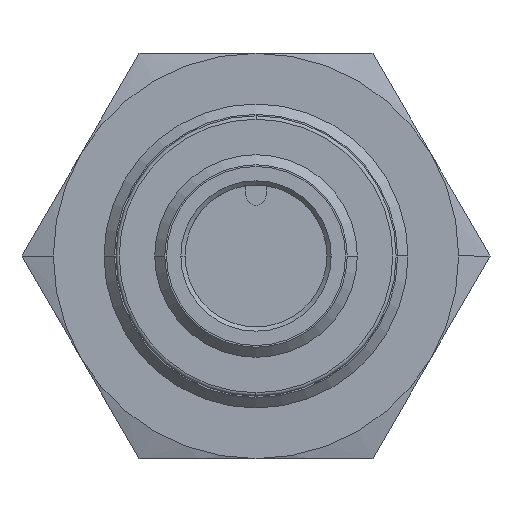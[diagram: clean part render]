
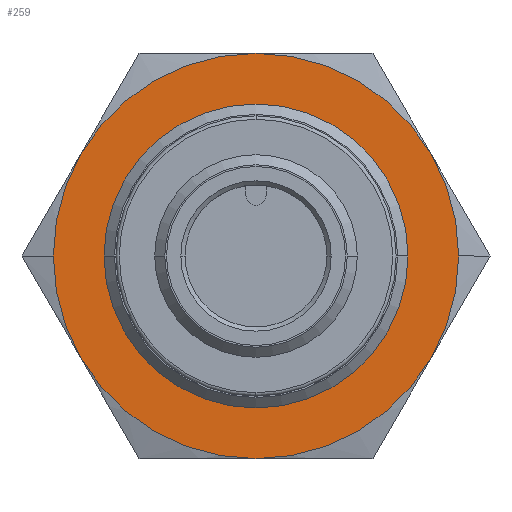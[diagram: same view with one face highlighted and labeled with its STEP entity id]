
A CAD part, left-side view. The second image highlights one B-rep face of the part: STEP entity #259.
In plain terms, the highlighted planar face has unit normal (-1, 0, 0).
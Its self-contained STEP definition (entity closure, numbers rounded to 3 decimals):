
#259 = ADVANCED_FACE( '', ( #477, #478 ), #479, .T. );
#477 = FACE_BOUND( '', #728, .T. );
#478 = FACE_OUTER_BOUND( '', #729, .T. );
#479 = PLANE( '', #730 );
#728 = EDGE_LOOP( '', ( #1431, #1432 ) );
#729 = EDGE_LOOP( '', ( #1433, #1434, #1435, #1436, #1437, #1438, #1439, #1440 ) );
#730 = AXIS2_PLACEMENT_3D( '', #1441, #1442, #1443 );
#1431 = ORIENTED_EDGE( '', *, *, #1853, .T. );
#1432 = ORIENTED_EDGE( '', *, *, #1791, .T. );
#1433 = ORIENTED_EDGE( '', *, *, #1849, .T. );
#1434 = ORIENTED_EDGE( '', *, *, #1802, .T. );
#1435 = ORIENTED_EDGE( '', *, *, #1844, .T. );
#1436 = ORIENTED_EDGE( '', *, *, #1845, .T. );
#1437 = ORIENTED_EDGE( '', *, *, #1804, .T. );
#1438 = ORIENTED_EDGE( '', *, *, #1846, .T. );
#1439 = ORIENTED_EDGE( '', *, *, #1847, .T. );
#1440 = ORIENTED_EDGE( '', *, *, #1848, .T. );
#1441 = CARTESIAN_POINT( '', ( 36.34, 6., 0. ) );
#1442 = DIRECTION( '', ( -1., 0., 0. ) );
#1443 = DIRECTION( '', ( 0., 1., 0. ) );
#1791 = EDGE_CURVE( '', #2129, #2126, #2130, .T. );
#1802 = EDGE_CURVE( '', #2145, #2147, #2149, .T. );
#1804 = EDGE_CURVE( '', #2153, #2150, #2154, .T. );
#1844 = EDGE_CURVE( '', #2147, #2173, #2216, .T. );
#1845 = EDGE_CURVE( '', #2173, #2153, #2217, .T. );
#1846 = EDGE_CURVE( '', #2150, #2204, #2218, .T. );
#1847 = EDGE_CURVE( '', #2204, #2196, #2219, .T. );
#1848 = EDGE_CURVE( '', #2196, #2183, #2220, .T. );
#1849 = EDGE_CURVE( '', #2183, #2145, #2221, .T. );
#1853 = EDGE_CURVE( '', #2126, #2129, #2225, .T. );
#2126 = VERTEX_POINT( '', #2860 );
#2129 = VERTEX_POINT( '', #2864 );
#2130 = CIRCLE( '', #2865, 9. );
#2145 = VERTEX_POINT( '', #2885 );
#2147 = VERTEX_POINT( '', #2888 );
#2149 = CIRCLE( '', #2899, 12. );
#2150 = VERTEX_POINT( '', #2900 );
#2153 = VERTEX_POINT( '', #2904 );
#2154 = CIRCLE( '', #2905, 12. );
#2173 = VERTEX_POINT( '', #2963 );
#2183 = VERTEX_POINT( '', #3011 );
#2196 = VERTEX_POINT( '', #3088 );
#2204 = VERTEX_POINT( '', #3133 );
#2216 = CIRCLE( '', #3182, 12. );
#2217 = CIRCLE( '', #3183, 12. );
#2218 = CIRCLE( '', #3184, 12. );
#2219 = CIRCLE( '', #3185, 12. );
#2220 = CIRCLE( '', #3186, 12. );
#2221 = CIRCLE( '', #3187, 12. );
#2225 = CIRCLE( '', #3191, 9. );
#2860 = CARTESIAN_POINT( '', ( 36.34, 9., 0. ) );
#2864 = CARTESIAN_POINT( '', ( 36.34, -9., 0. ) );
#2865 = AXIS2_PLACEMENT_3D( '', #3769, #3770, #3771 );
#2885 = CARTESIAN_POINT( '', ( 36.34, 12., 0. ) );
#2888 = CARTESIAN_POINT( '', ( 36.34, 10.392, -6. ) );
#2899 = AXIS2_PLACEMENT_3D( '', #3787, #3788, #3789 );
#2900 = CARTESIAN_POINT( '', ( 36.34, -12., 0. ) );
#2904 = CARTESIAN_POINT( '', ( 36.34, -10.392, -6. ) );
#2905 = AXIS2_PLACEMENT_3D( '', #3791, #3792, #3793 );
#2963 = CARTESIAN_POINT( '', ( 36.34, 0., -12. ) );
#3011 = CARTESIAN_POINT( '', ( 36.34, 10.392, 6. ) );
#3088 = CARTESIAN_POINT( '', ( 36.34, 0., 12. ) );
#3133 = CARTESIAN_POINT( '', ( 36.34, -10.392, 6. ) );
#3182 = AXIS2_PLACEMENT_3D( '', #3826, #3827, #3828 );
#3183 = AXIS2_PLACEMENT_3D( '', #3829, #3830, #3831 );
#3184 = AXIS2_PLACEMENT_3D( '', #3832, #3833, #3834 );
#3185 = AXIS2_PLACEMENT_3D( '', #3835, #3836, #3837 );
#3186 = AXIS2_PLACEMENT_3D( '', #3838, #3839, #3840 );
#3187 = AXIS2_PLACEMENT_3D( '', #3841, #3842, #3843 );
#3191 = AXIS2_PLACEMENT_3D( '', #3853, #3854, #3855 );
#3769 = CARTESIAN_POINT( '', ( 36.34, 0., 0. ) );
#3770 = DIRECTION( '', ( 1., 0., 0. ) );
#3771 = DIRECTION( '', ( 0., 1., 0. ) );
#3787 = CARTESIAN_POINT( '', ( 36.34, 0., 0. ) );
#3788 = DIRECTION( '', ( -1., 0., 0. ) );
#3789 = DIRECTION( '', ( 0., 1., 0. ) );
#3791 = CARTESIAN_POINT( '', ( 36.34, 0., 0. ) );
#3792 = DIRECTION( '', ( -1., 0., 0. ) );
#3793 = DIRECTION( '', ( 0., 1., 0. ) );
#3826 = CARTESIAN_POINT( '', ( 36.34, 0., 0. ) );
#3827 = DIRECTION( '', ( -1., 0., 0. ) );
#3828 = DIRECTION( '', ( 0., 1., 0. ) );
#3829 = CARTESIAN_POINT( '', ( 36.34, 0., 0. ) );
#3830 = DIRECTION( '', ( -1., 0., 0. ) );
#3831 = DIRECTION( '', ( 0., 1., 0. ) );
#3832 = CARTESIAN_POINT( '', ( 36.34, 0., 0. ) );
#3833 = DIRECTION( '', ( -1., 0., 0. ) );
#3834 = DIRECTION( '', ( 0., 1., 0. ) );
#3835 = CARTESIAN_POINT( '', ( 36.34, 0., 0. ) );
#3836 = DIRECTION( '', ( -1., 0., 0. ) );
#3837 = DIRECTION( '', ( 0., 1., 0. ) );
#3838 = CARTESIAN_POINT( '', ( 36.34, 0., 0. ) );
#3839 = DIRECTION( '', ( -1., 0., 0. ) );
#3840 = DIRECTION( '', ( 0., 1., 0. ) );
#3841 = CARTESIAN_POINT( '', ( 36.34, 0., 0. ) );
#3842 = DIRECTION( '', ( -1., 0., 0. ) );
#3843 = DIRECTION( '', ( 0., 1., 0. ) );
#3853 = CARTESIAN_POINT( '', ( 36.34, 0., 0. ) );
#3854 = DIRECTION( '', ( 1., 0., 0. ) );
#3855 = DIRECTION( '', ( 0., 1., 0. ) );
